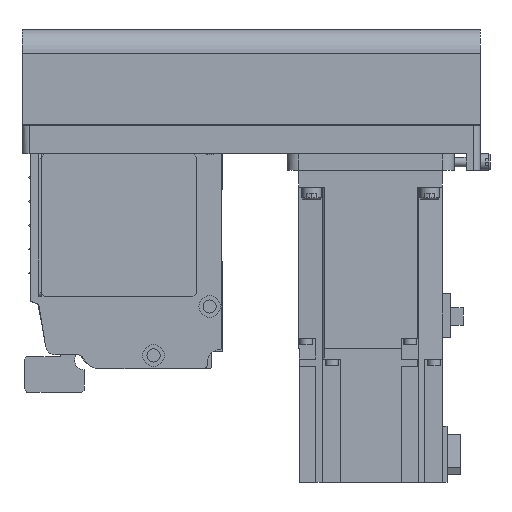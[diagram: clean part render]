
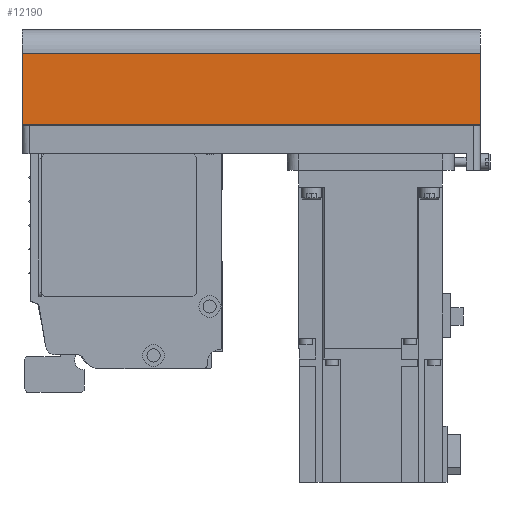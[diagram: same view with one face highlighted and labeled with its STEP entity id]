
A CAD part, left-side view. The second image highlights one B-rep face of the part: STEP entity #12190.
In plain terms, the highlighted planar face has unit normal (-1, 0, 0) as drawn and (0, -1, 0) by its records, which use the part's own axes.
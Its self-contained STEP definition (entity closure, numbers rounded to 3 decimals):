
#2199=ORIENTED_EDGE('',*,*,#4951,.F.);
#2200=ORIENTED_EDGE('',*,*,#4917,.F.);
#2201=ORIENTED_EDGE('',*,*,#4940,.T.);
#2202=ORIENTED_EDGE('',*,*,#4984,.T.);
#4917=EDGE_CURVE('',#6459,#6460,#7687,.T.);
#4940=EDGE_CURVE('',#6459,#6478,#7706,.T.);
#4951=EDGE_CURVE('',#6460,#6486,#7715,.T.);
#4984=EDGE_CURVE('',#6478,#6486,#7728,.T.);
#6459=VERTEX_POINT('',#18961);
#6460=VERTEX_POINT('',#18963);
#6478=VERTEX_POINT('',#19006);
#6486=VERTEX_POINT('',#19030);
#7687=LINE('',#18962,#8915);
#7706=LINE('',#19007,#8934);
#7715=LINE('',#19029,#8943);
#7728=LINE('',#19087,#8956);
#8915=VECTOR('',#15248,1000.);
#8934=VECTOR('',#15281,1000.);
#8943=VECTOR('',#15302,1000.);
#8956=VECTOR('',#15387,1000.);
#10012=EDGE_LOOP('',(#2199,#2200,#2201,#2202));
#10906=FACE_BOUND('',#10012,.T.);
#11631=PLANE('',#13137);
#12190=ADVANCED_FACE('',(#10906),#11631,.T.);
#13137=AXIS2_PLACEMENT_3D('',#19088,#15388,#15389);
#15248=DIRECTION('',(1.,0.,0.));
#15281=DIRECTION('',(0.,0.,-1.));
#15302=DIRECTION('',(0.,0.,-1.));
#15387=DIRECTION('',(1.,0.,0.));
#15388=DIRECTION('',(0.,-1.,0.));
#15389=DIRECTION('',(0.,0.,-1.));
#18961=CARTESIAN_POINT('',(-192.,-40.,-12.1));
#18962=CARTESIAN_POINT('',(-192.,-40.,-12.1));
#18963=CARTESIAN_POINT('',(0.,-40.,-12.1));
#19006=CARTESIAN_POINT('',(-192.,-40.,-42.));
#19007=CARTESIAN_POINT('',(-192.,-40.,-12.1));
#19029=CARTESIAN_POINT('',(0.,-40.,-12.1));
#19030=CARTESIAN_POINT('',(0.,-40.,-42.));
#19087=CARTESIAN_POINT('',(-192.,-40.,-42.));
#19088=CARTESIAN_POINT('',(-192.,-40.,-12.1));
